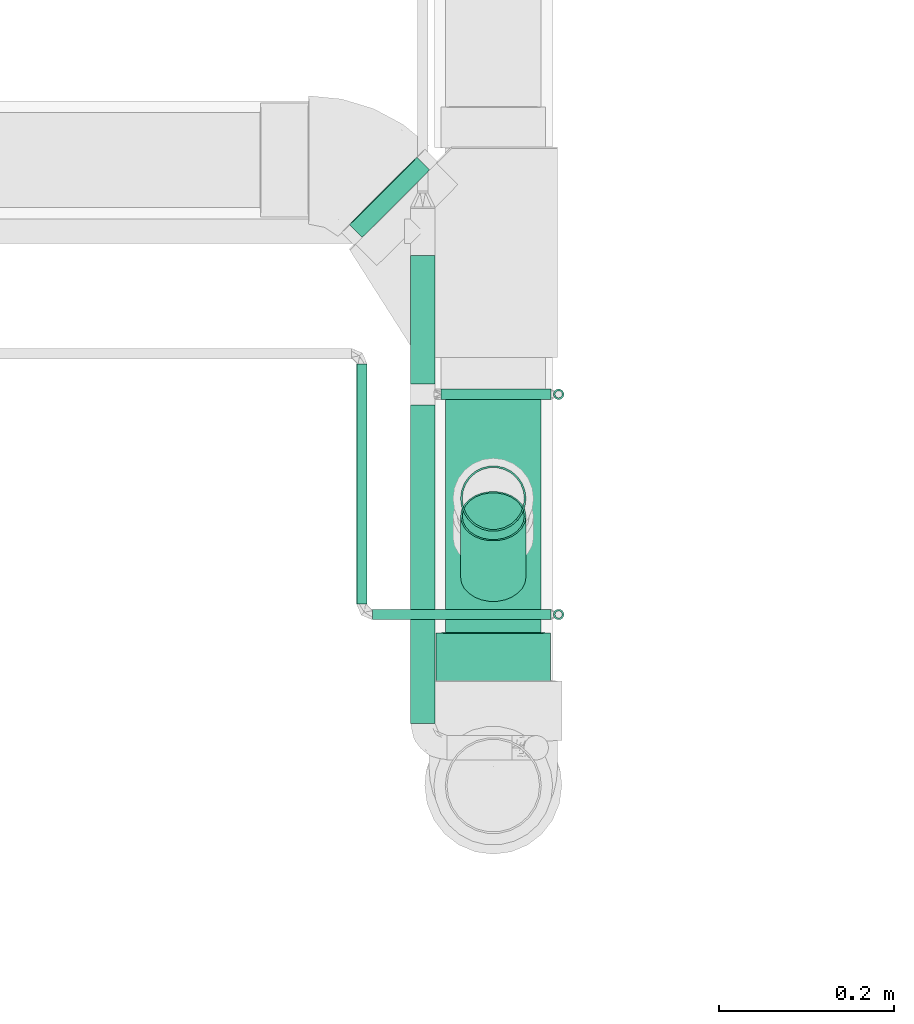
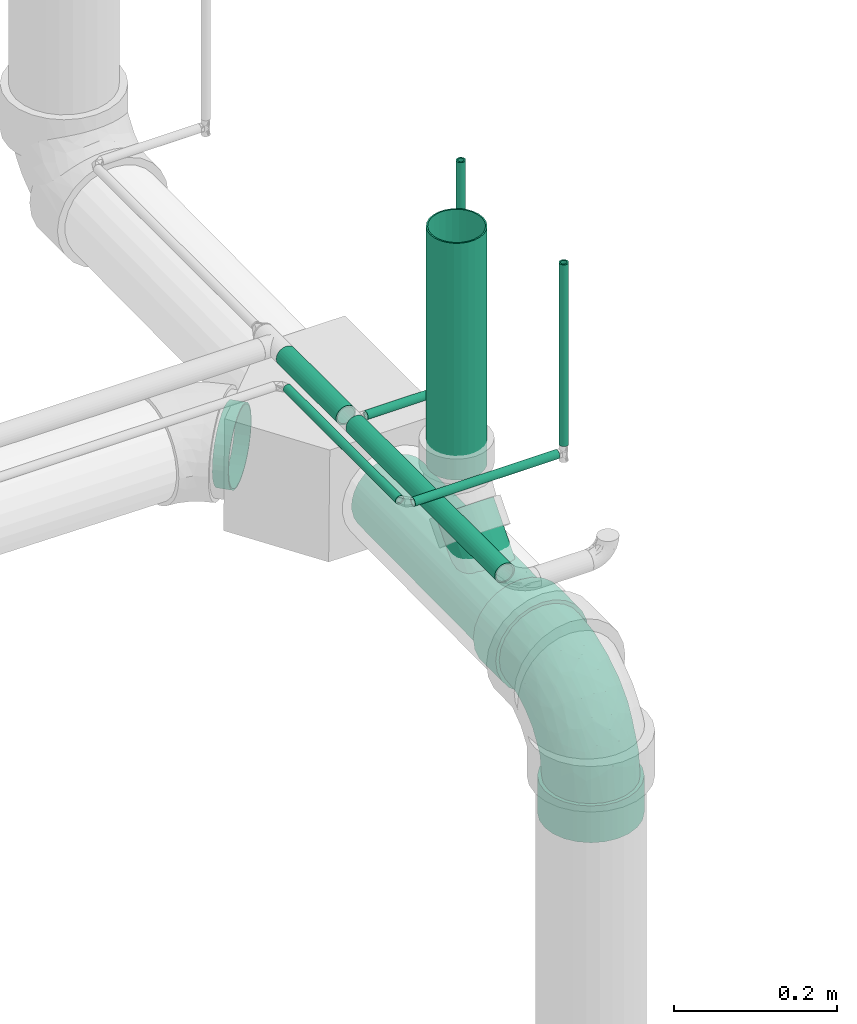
# One storey, part 41 of 108: 11 flow segments, 1 flow fitting.
"""IFC2X3 building model written with IfcOpenShell, lengths in millimetres."""

import ifcopenshell
import ifcopenshell.guid

model = None  # the IFC model being written
_history = None  # IfcOwnerHistory: only IFC2X3 demands one
_inside = {}  # id of a spatial element -> (the spatial element, [elements in it])
_under = {}  # id of a project, library or spatial element -> (it, [spatial elements below it])
_declared = {}  # id of a project -> (the project, [libraries it declares])
_typed = {}  # id of a type object -> (the type object, [elements of that type])
_made_of = {}  # id of a material, layer set ... -> (it, [elements and type objects made of it])


def new_model(schema):
    """Start an empty IFC model of exactly this schema.

    Asked for "IFC4X3", IfcOpenShell would pick the latest addendum, in which some entities
    have other attributes; the version numbers below select the first issue.
    IFC2X3 requires an IfcOwnerHistory on every rooted entity: one is made here for all.
    """
    global model, _history
    if schema == "IFC4X3":
        model = ifcopenshell.file(schema_version=(4, 3, 0, 0))
    else:
        model = ifcopenshell.file(schema=schema)
    _inside.clear()
    _under.clear()
    _declared.clear()
    _typed.clear()
    _made_of.clear()
    _history = None
    if model.schema == "IFC2X3":
        org = make("IfcOrganization", Name="unknown")
        user = make(
            "IfcPersonAndOrganization",
            ThePerson=make("IfcPerson", FamilyName="unknown"),
            TheOrganization=org,
        )
        app = make(
            "IfcApplication",
            ApplicationDeveloper=org,
            Version="unknown",
            ApplicationFullName="unknown",
            ApplicationIdentifier="unknown",
        )
        _history = make(
            "IfcOwnerHistory",
            OwningUser=user,
            OwningApplication=app,
            ChangeAction="ADDED",
            CreationDate=0,
        )
    return model


def make(cls, **values):
    """One entity of the class cls with the attributes given. An attribute that is None is left unset."""
    return model.create_entity(
        cls, **{name: value for name, value in values.items() if value is not None}
    )


def entity(cls, *values):
    """Any entity or typed value of the class cls, its attributes in the order of the schema. None: left unset."""
    e = model.create_entity(cls)
    for i, value in enumerate(values):
        if value is not None:
            e[i] = value
    return e


def rooted(cls, **values):
    """An entity with a GlobalId (a new one), such as an element, a storey or a relation."""
    return make(cls, GlobalId=ifcopenshell.guid.new(), OwnerHistory=_history, **values)


def si_unit(unit_type, name, prefix=None):
    """IfcSIUnit, for example si_unit("LENGTHUNIT", "METRE", prefix="MILLI")."""
    return make("IfcSIUnit", UnitType=unit_type, Prefix=prefix, Name=name)


def converted_unit(unit_type, name, factor, base, dimensions=None, offset=None):
    """IfcConversionBasedUnit, such as the inch: factor (a typed value) times the base unit."""
    return make(
        "IfcConversionBasedUnit"
        if offset is None
        else "IfcConversionBasedUnitWithOffset",
        ConversionOffset=offset,
        Dimensions=None
        if dimensions is None
        else entity("IfcDimensionalExponents", *dimensions),
        UnitType=unit_type,
        Name=name,
        ConversionFactor=make(
            "IfcMeasureWithUnit", ValueComponent=factor, UnitComponent=base
        ),
    )


def derived_unit(unit_type, elements):
    """IfcDerivedUnit: a product of units, each with its exponent."""
    return make(
        "IfcDerivedUnit",
        Elements=[
            make("IfcDerivedUnitElement", Unit=unit, Exponent=power)
            for unit, power in elements
        ],
        UnitType=unit_type,
    )


def assignment(units):
    """IfcUnitAssignment: the units of a project."""
    return None if units is None else make("IfcUnitAssignment", Units=units)


def point(xyz):
    """IfcCartesianPoint."""
    return None if xyz is None else make("IfcCartesianPoint", Coordinates=xyz)


def direction(xyz):
    """IfcDirection."""
    return None if xyz is None else make("IfcDirection", DirectionRatios=xyz)


def frame(location, z_axis=None, x_axis=None):
    """IfcAxis2Placement3D, a coordinate frame: its origin and axes. An axis left out is left unset."""
    return make(
        "IfcAxis2Placement3D",
        Location=point(location),
        Axis=direction(z_axis),
        RefDirection=direction(x_axis),
    )


def frame_2d(location, x_axis=None):
    """IfcAxis2Placement2D, a coordinate frame in the plane: its origin and x axis."""
    return make(
        "IfcAxis2Placement2D", Location=point(location), RefDirection=direction(x_axis)
    )


def origin_with_axes():
    """The frame at (0, 0, 0) with the z axis (0, 0, 1) and the x axis (1, 0, 0) written out."""
    return frame((0.0, 0.0, 0.0), z_axis=(0.0, 0.0, 1.0), x_axis=(1.0, 0.0, 0.0))


def origin_2d_with_axis():
    """The frame at (0, 0) in the plane with the x axis (1, 0) written out."""
    return frame_2d((0.0, 0.0), x_axis=(1.0, 0.0))


def place(relative_to, where):
    """IfcLocalPlacement: puts the frame where relative to a parent placement (None: the world)."""
    return make(
        "IfcLocalPlacement", PlacementRelTo=relative_to, RelativePlacement=where
    )


def context(
    kind, dimensions, precision=None, world=None, true_north=None, identifier=None
):
    """IfcGeometricRepresentationContext, for example the 3D "Model" context."""
    return make(
        "IfcGeometricRepresentationContext",
        ContextIdentifier=identifier,
        ContextType=kind,
        CoordinateSpaceDimension=dimensions,
        Precision=precision,
        WorldCoordinateSystem=world,
        TrueNorth=true_north,
    )


def subcontext(parent, identifier, kind, view, scale=None):
    """IfcGeometricRepresentationSubContext, for example "Body" below "Model"."""
    return make(
        "IfcGeometricRepresentationSubContext",
        ContextIdentifier=identifier,
        ContextType=kind,
        ParentContext=parent,
        TargetScale=scale,
        TargetView=view,
    )


def project(units=None, contexts=None):
    """IfcProject with its units and contexts."""
    return rooted(
        "IfcProject",
        Name="project",
        RepresentationContexts=contexts,
        UnitsInContext=assignment(units),
    )


def spatial(cls, under=None, at=None, **own):
    """A site, building, storey or space (cls), placed at a placement, below another one or the project."""
    s = rooted(cls, ObjectPlacement=at, **own)
    if under is not None:
        _under.setdefault(under.id(), (under, []))[1].append(s)
    return s


def profile(cls, at=None, kind="AREA", **sizes):
    """A parametric profile (cls). Its sizes go by their IFC names, for example OverallWidth=200.0."""
    return make(cls, ProfileType=kind, Position=at, **sizes)


def hollow_circle(**sizes):
    """IfcCircleHollowProfileDef."""
    return profile("IfcCircleHollowProfileDef", **sizes)


def extrude(swept, where, along, depth):
    """IfcExtrudedAreaSolid: the profile swept, set in the frame where, extruded along a direction by depth."""
    return make(
        "IfcExtrudedAreaSolid",
        SweptArea=swept,
        Position=where,
        ExtrudedDirection=direction(along),
        Depth=depth,
    )


def faces_of(points, faces, orient=None, outer=None):
    """IfcFace entities. A face is a list of loops; a loop is a list of indices into points, from 0.

    orient and outer hold one flag for each loop. By default every Orientation is true, the
    first loop of a face is its IfcFaceOuterBound and the others are IfcFaceBound.
    """
    made = []
    for i, loops in enumerate(faces):
        bounds = []
        for j, loop in enumerate(loops):
            is_outer = j == 0 if outer is None else outer[i][j]
            bounds.append(
                make(
                    "IfcFaceOuterBound" if is_outer else "IfcFaceBound",
                    Bound=make("IfcPolyLoop", Polygon=[points[k] for k in loop]),
                    Orientation=True if orient is None else orient[i][j],
                )
            )
        made.append(make("IfcFace", Bounds=bounds))
    return made


def open_shell(faces, orient=None, outer=None):
    """The faces of one IfcOpenShell. surface_model builds it on its shared points."""
    return ("IfcOpenShell", faces, orient, outer)


def surface_model(cls, points, shells):
    """IfcFaceBasedSurfaceModel or IfcShellBasedSurfaceModel (cls): surfaces that need not close."""
    shared = [point(p) for p in points]
    made = [make(c, CfsFaces=faces_of(shared, fs, o, b)) for c, fs, o, b in shells]
    if cls == "IfcFaceBasedSurfaceModel":
        return make(cls, FbsmFaces=made)
    return make(cls, SbsmBoundary=made)


def shape(context_of_items, identifier, shape_type, items):
    """IfcShapeRepresentation: the items that make up one representation, for example the "Body"."""
    return make(
        "IfcShapeRepresentation",
        ContextOfItems=context_of_items,
        RepresentationIdentifier=identifier,
        RepresentationType=shape_type,
        Items=items,
    )


def source(mapping_origin, context_of_items, identifier, shape_type, items):
    """IfcRepresentationMap: a shape defined once, which mapped items show again and again."""
    return make(
        "IfcRepresentationMap",
        MappingOrigin=mapping_origin,
        MappedRepresentation=shape(context_of_items, identifier, shape_type, items),
    )


def transform(
    local_origin,
    x_axis=None,
    y_axis=None,
    z_axis=None,
    scale=None,
    scale2=None,
    scale3=None,
    uniform=True,
):
    """IfcCartesianTransformationOperator3D, or its non-uniform kind. x_axis, y_axis, z_axis: its Axis1, 2, 3."""
    if uniform:
        return make(
            "IfcCartesianTransformationOperator3D",
            Axis1=direction(x_axis),
            Axis2=direction(y_axis),
            LocalOrigin=point(local_origin),
            Scale=scale,
            Axis3=direction(z_axis),
        )
    return make(
        "IfcCartesianTransformationOperator3DnonUniform",
        Axis1=direction(x_axis),
        Axis2=direction(y_axis),
        LocalOrigin=point(local_origin),
        Scale=scale,
        Axis3=direction(z_axis),
        Scale2=scale2,
        Scale3=scale3,
    )


def mapped(mapping_source, mapping_target):
    """IfcMappedItem: shows the shape of a source again, moved by a transform."""
    return make(
        "IfcMappedItem", MappingSource=mapping_source, MappingTarget=mapping_target
    )


def made_of(thing, what):
    """Note that an element or type object is made of a material, layer set ...; save() writes the relation."""
    if what is not None:
        _made_of.setdefault(what.id(), (what, []))[1].append(thing)
    return thing


def type_object(cls, material=None, **own):
    """A type object (cls), such as IfcWallType, which elements share."""
    return made_of(rooted(cls, **own), material)


def element(
    cls,
    number,
    at=None,
    inside=None,
    cuts=None,
    type_object=None,
    material=None,
    context=None,
    identifier="Body",
    shape_type=None,
    held_by="IfcProductDefinitionShape",
    body=None,
    shapes=None,
    **own,
):
    """One element of the class cls, such as IfcWall. Its Tag is "e" and its number.

    at: its placement. inside: the storey or other place that contains it. cuts: it is an
    opening in that element (IfcRelVoidsElement). A single representation is given by context,
    identifier, shape_type and body (its items); several are given by shapes. held_by: the class
    of the entity that holds the representations. save() writes the other relations.
    """
    e = rooted(cls, Tag="e%d" % number, ObjectPlacement=at, **own)
    if body is not None:
        shapes = [shape(context, identifier, shape_type, body)]
    if shapes is not None:
        e.Representation = make(held_by, Representations=shapes)
    if inside is not None:
        _inside.setdefault(inside.id(), (inside, []))[1].append(e)
    if cuts is not None:
        rooted(
            "IfcRelVoidsElement", RelatingBuildingElement=cuts, RelatedOpeningElement=e
        )
    if type_object is not None:
        _typed.setdefault(type_object.id(), (type_object, []))[1].append(e)
    return made_of(e, material)


def aggregate(whole, parts):
    """IfcRelAggregates: a whole, such as a stair, and the parts it consists of."""
    return rooted("IfcRelAggregates", RelatingObject=whole, RelatedObjects=parts)


def save(model, path):
    """Write the relations noted so far, then the file.

    IfcRelAggregates (storeys below a building ...), IfcRelContainedInSpatialStructure (elements
    in a storey), IfcRelDefinesByType, IfcRelAssociatesMaterial and IfcRelDeclares: one each for
    every whole, place, type object, material and project.
    """
    for whole, parts in _under.values():
        aggregate(whole, parts)
    for where, things in _inside.values():
        rooted(
            "IfcRelContainedInSpatialStructure",
            RelatedElements=things,
            RelatingStructure=where,
        )
    for kind, things in _typed.values():
        rooted("IfcRelDefinesByType", RelatedObjects=things, RelatingType=kind)
    for what, things in _made_of.values():
        rooted("IfcRelAssociatesMaterial", RelatedObjects=things, RelatingMaterial=what)
    for by, libraries in _declared.values():
        rooted("IfcRelDeclares", RelatingContext=by, RelatedDefinitions=libraries)
    model.write(path)


model = new_model("IFC2X3")

# Units and contexts
model_context = context("Model", 3, precision=0.01, world=frame((0.0, 4.29681676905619e-09, 0.0)), true_north=direction((4.01073788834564e-13, 1.0)))
plan_context = context("Plan", 3, precision=0.01, world=frame((0.0, 4.29681676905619e-09, 0.0)), true_north=direction((4.01073788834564e-13, 1.0)))
body_context = subcontext(model_context, "Body", "Model", "MODEL_VIEW")
ifc_project = project(units=[converted_unit("PLANEANGLEUNIT", "DEGREE", entity("IfcPositiveLengthMeasure", 0.0174532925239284), si_unit("PLANEANGLEUNIT", "RADIAN"), dimensions=[0, 0, 0, 0, 0, 0, 0]), si_unit("AREAUNIT", "SQUARE_METRE"), si_unit("LENGTHUNIT", "METRE", prefix="MILLI"), si_unit("MASSUNIT", "GRAM", prefix="KILO"), si_unit("POWERUNIT", "WATT"), si_unit("PRESSUREUNIT", "PASCAL", prefix="KILO"), si_unit("FORCEUNIT", "NEWTON", prefix="KILO"), si_unit("ELECTRICVOLTAGEUNIT", "VOLT"), si_unit("ELECTRICCURRENTUNIT", "AMPERE"), si_unit("THERMODYNAMICTEMPERATUREUNIT", "DEGREE_CELSIUS"), si_unit("TIMEUNIT", "SECOND"), si_unit("VOLUMEUNIT", "CUBIC_METRE"), derived_unit("LINEARVELOCITYUNIT", [(si_unit("LENGTHUNIT", "METRE"), 1), (si_unit("TIMEUNIT", "SECOND"), -1)]), derived_unit("VOLUMETRICFLOWRATEUNIT", [(si_unit("VOLUMEUNIT", "CUBIC_METRE"), 1), (si_unit("TIMEUNIT", "SECOND"), -1)]), derived_unit("THERMALTRANSMITTANCEUNIT", [(si_unit("POWERUNIT", "WATT"), 1), (si_unit("THERMODYNAMICTEMPERATUREUNIT", "KELVIN"), -1), (si_unit("AREAUNIT", "SQUARE_METRE"), -1)]), derived_unit("SOUNDPRESSUREUNIT", [(si_unit("PRESSUREUNIT", "PASCAL"), 1)])], contexts=[model_context, plan_context])

# Site, building, storey
site_placement = place(None, frame((0.0, -4.29681676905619e-09, 0.0), z_axis=(0.0, 0.0, 1.0), x_axis=(1.0, 0.0, 0.0)))
site = spatial("IfcSite", under=ifc_project, at=site_placement, CompositionType="ELEMENT")
building_placement = place(site_placement, frame((0.0, 4.29681676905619e-09, 0.0), z_axis=(0.0, 0.0, 1.0), x_axis=(1.0, 0.0, 0.0)))
building = spatial("IfcBuilding", under=site, at=building_placement, Name="mc-building", CompositionType="ELEMENT")
storey_placement = place(building_placement, frame((0.0, 0.0, 210200.0), z_axis=(0.0, 0.0, 1.0), x_axis=(1.0, 0.0, 0.0)))
storey = spatial("IfcBuildingStorey", under=building, at=storey_placement, Name="Nivå F - 0,7 m", CompositionType="ELEMENT", Elevation=210200.0)

# Flow fitting
pipe_fitting_type = type_object("IfcPipeFittingType", Name="magi_sewer_bend_001", PredefinedType="BEND")
shared_shape_1 = source(origin_with_axes(), body_context, "Body", "SurfaceModel", [
    surface_model("IfcShellBasedSurfaceModel", [(-174.79605, -16.95265, -63.26814), (-174.79605, -32.75, -56.72466), (-174.79605, -46.3155, -46.3155), (-174.79605, -63.26814, -16.95265), (-174.79605, 56.72466, -32.75), (-174.79605, -56.72466, -32.75), (-174.79605, -65.5, 0.0), (-174.79605, 16.95265, -63.26814), (-174.79605, 0.0, -65.5), (-174.79605, 32.75, -56.72466), (-174.79605, 46.3155, -46.3155), (-174.79605, 63.26814, -16.95265), (-174.79605, -63.26814, 16.95265), (-174.79605, -56.72466, 32.75), (-174.79605, -46.3155, 46.3155), (-174.79605, 63.26814, 16.95265), (-174.79605, -16.95265, 63.26814), (-174.79605, 0.0, 65.5), (-174.79605, -32.75, 56.72466), (-174.79605, 46.3155, 46.3155), (-174.79605, 56.72466, 32.75), (-174.79605, 65.5, 0.0), (-174.79605, 16.95265, 63.26814), (-174.79605, 32.75, 56.72466), (-119.79605, -16.95265, 63.26814), (-119.79605, 16.95265, 63.26814), (-119.79605, 0.0, 65.5), (-119.79605, -46.3155, 46.3155), (-119.79605, -32.75, 56.72466), (-119.79605, -56.72466, 32.75), (-119.79605, -63.26814, 16.95265), (-119.79605, 46.3155, 46.3155), (-119.79605, 32.75, 56.72466), (-119.79605, 63.26814, 16.95265), (-119.79605, 56.72466, 32.75), (-119.79605, 63.26814, -16.95265), (-119.79605, 65.5, 0.0), (-119.79605, -63.26814, -16.95265), (-119.79605, 32.75, -56.72466), (-119.79605, -65.5, 0.0), (-119.79605, -16.95265, -63.26814), (-119.79605, -56.72466, -32.75), (-119.79605, -46.3155, -46.3155), (-119.79605, -32.75, -56.72466), (-119.79605, 0.0, -65.5), (-119.79605, 46.3155, -46.3155), (-119.79605, 56.72466, -32.75), (-119.79605, 16.95265, -63.26814), (-61.51711, 175.41996, 16.95265), (-54.97396, 175.35452, 32.75), (-44.56531, 175.25044, 46.3155), (-15.20393, 174.95684, 63.26814), (-61.51711, 175.41996, -16.95265), (18.69967, 174.61779, -63.26814), (-31.00049, 175.1148, 56.72466), (48.06105, 174.32417, 46.3155), (-44.56531, 175.25044, -46.3155), (-54.97396, 175.35452, -32.75), (-63.74885, 175.44227, 0.0), (-31.00049, 175.1148, -56.72466), (1.74787, 174.78731, -65.5), (-15.20393, 174.95684, -63.26814), (1.74787, 174.78731, 65.5), (18.69967, 174.61779, 63.26814), (34.49624, 174.45983, 56.72466), (58.4697, 174.22009, 32.75), (65.01285, 174.15467, 16.95265), (67.2446, 174.13234, 0.0), (48.06105, 174.32417, -46.3155), (34.49624, 174.45983, -56.72466), (58.4697, 174.22009, -32.75), (65.01285, 174.15467, -16.95265), (66.69463, 119.1351, 0.0), (64.46288, 119.15741, 16.95265), (57.91973, 119.22285, 32.75), (47.51108, 119.32693, 46.3155), (33.94626, 119.46258, 56.72466), (18.1497, 119.62054, 63.26814), (47.51108, 119.32693, -46.3155), (-15.7539, 119.95957, -63.26814), (18.1497, 119.62054, -63.26814), (57.91973, 119.22285, -32.75), (64.46288, 119.15741, -16.95265), (33.94626, 119.46258, -56.72466), (1.1979, 119.79006, -65.5), (-15.7539, 119.95957, 63.26814), (-45.11528, 120.25319, -46.3155), (1.1979, 119.79006, 65.5), (-62.06708, 120.42271, 16.95265), (-31.55046, 120.11754, 56.72466), (-45.11528, 120.25319, 46.3155), (-55.52393, 120.35728, 32.75), (-31.55046, 120.11754, -56.72466), (-62.06708, 120.42271, -16.95265), (-55.52393, 120.35728, -32.75), (-64.29882, 120.44503, 0.0), (-119.79605, 15.65855, -58.43851), (-119.79605, 0.0, -60.5), (-119.79605, 58.43851, -15.65855), (-119.79605, 30.25, -52.39454), (-119.79605, 52.39454, -30.25), (-119.79605, 42.77996, -42.77996), (-119.79605, -60.5, 0.0), (-119.79605, -30.25, -52.39454), (-119.79605, -42.77996, -42.77996), (-119.79605, -15.65855, -58.43851), (-119.79605, -58.43851, -15.65855), (-119.79605, -52.39454, -30.25), (-119.79605, -58.43851, 15.65855), (-119.79605, 58.43851, 15.65855), (-119.79605, 52.39454, 30.25), (-119.79605, 42.77996, 42.77996), (-119.79605, 30.25, 52.39454), (-119.79605, 15.65855, 58.43851), (-119.79605, -52.39454, 30.25), (-119.79605, -42.77996, 42.77996), (-119.79605, -30.25, 52.39454), (-119.79605, -15.65855, 58.43851), (-119.79605, 0.0, 60.5), (-119.79605, 60.5, 0.0), (1.1979, 119.79006, -60.5), (-14.45987, 119.94664, -58.43851), (-29.05059, 120.09254, -52.39454), (43.97572, 119.36228, -42.77996), (-51.19402, 120.31398, -30.25), (59.63349, 119.20571, 15.65855), (-41.57992, 120.21783, -42.77996), (61.69488, 119.18509, 0.0), (16.85567, 119.63349, -58.43851), (31.44639, 119.48757, -52.39454), (53.58982, 119.26614, -30.25), (59.63349, 119.20571, -15.65855), (-51.19402, 120.31398, 30.25), (-57.23769, 120.37442, -15.65855), (-59.29907, 120.39503, 0.0), (-57.23769, 120.37442, 15.65855), (-29.05059, 120.09254, 52.39454), (-41.57992, 120.21783, 42.77996), (-14.45987, 119.94664, 58.43851), (43.97572, 119.36228, 42.77996), (53.58982, 119.26614, 30.25), (31.44639, 119.48757, 52.39454), (1.1979, 119.79006, 60.5), (16.85567, 119.63349, 58.43851), (-87.7564, -47.01625, 33.99799), (-81.59863, -53.25036, 19.1542), (-73.11264, -54.39358, 0.0), (-89.88607, -56.58763, 0.0), (32.95566, 31.76664, 23.12546), (43.83182, 46.87375, 14.90539), (38.78221, 51.23378, 30.50477), (27.9062, 48.06796, 41.81132), (15.20787, 45.76588, 50.34414), (12.34215, 21.46453, 41.06128), (-87.67949, -22.85435, 54.43811), (-45.91566, -14.74948, 50.34414), (-59.39918, -0.63529, 58.66063), (35.61407, 77.62346, 45.0791), (-77.9757, -34.8361, 45.0791), (-43.87656, -41.69608, 15.28359), (-51.34156, -45.4394, 0.0), (-29.57048, -36.48523, 0.0), (-60.74993, 104.22435, 10.29838), (-69.35406, 85.05568, 13.11484), (-55.89617, 104.58988, 25.146), (-90.67997, 51.23595, 39.98418), (-82.35119, 68.70825, 21.14642), (-72.88608, 71.30295, 29.78529), (-74.46524, 51.83294, 46.83172), (-93.91693, 37.9627, 50.02655), (-64.7146, 46.18683, 53.57995), (-20.42175, 58.94997, 60.37774), (-44.08168, 44.5247, 59.00094), (-35.46902, 26.15717, 60.21062), (-91.4278, -8.01784, 59.47305), (-21.55232, 103.54419, 56.65744), (-7.40427, 89.47277, 60.34912), (-81.06567, 26.11389, 57.59764), (-89.39426, 8.29859, 60.34912), (-61.1963, 20.40125, 60.32653), (-100.22652, 59.69373, 21.24783), (-87.01841, 60.22132, 31.01352), (-5.00788, -10.48569, 28.16974), (-0.2567, 1.69835, 36.97518), (-20.02834, -14.60637, 37.65577), (-104.15051, 61.68873, 10.04729), (-84.97466, 70.52154, 9.94969), (-27.56806, -26.6884, 28.95666), (-47.70463, -27.46001, 41.48377), (-77.23051, 78.00668, 0.0), (-96.78351, 65.04758, 0.0), (-37.30343, 92.96145, 50.12884), (-103.3235, 22.58663, 56.65744), (-15.17468, 39.71716, 59.39969), (-29.2412, 11.04411, 56.57187), (-5.36768, 32.19014, 55.60132), (-10.25306, 10.3561, 49.56135), (55.12195, 72.56508, 0.0), (54.06364, 81.06208, 19.1542), (47.89142, 87.28187, 33.99799), (8.93168, 91.34306, 59.47305), (-51.61902, -38.26796, 30.50477), (57.48361, 89.31572, 0.0), (-48.94222, 80.35407, 45.98414), (-48.70503, 96.95831, 39.351), (-64.07654, 97.42911, 0.0), (-25.30197, 81.32275, 57.59764), (-43.81672, 66.27767, 53.95713), (23.72996, 87.44657, 54.43811), (-61.39969, 85.45322, 29.82879), (-63.05326, 67.11986, 42.80831), (-31.43024, 61.58285, 58.73283), (1.22922, 59.38986, 58.66063), (7.99357, -4.95199, 15.701), (-10.83497, -22.23259, 0.0), (7.90055, -7.97995, 0.0), (-14.80413, -23.43427, 18.62284), (36.77909, 29.20417, 0.0), (27.16405, 17.21797, 13.77462), (14.60561, 9.00285, 27.38157), (-62.13583, 35.67828, 57.75346), (25.55144, 29.73756, 33.12826), (45.95052, 50.88462, 0.0), (22.33982, 10.61211, 0.0), (-100.30809, 36.96592, -49.53455), (-47.73707, -27.58441, -41.37975), (-45.91566, -14.74948, -50.34414), (-20.02833, -14.60637, -37.65576), (-89.39426, 8.29859, -60.34912), (23.72996, 87.44657, -54.43811), (15.20787, 45.76587, -50.34414), (1.22922, 59.38986, -58.66063), (-103.3235, 22.58663, -56.65744), (-69.35406, 85.05568, -13.11484), (-99.61716, 61.7931, -15.61987), (-60.74993, 104.22435, -10.29838), (-84.97466, 70.52154, -9.94969), (-51.61902, -38.26796, -30.50477), (-27.56806, -26.6884, -28.95666), (-81.06567, 26.11389, -57.59764), (-77.10309, 43.83442, -50.82968), (-63.16489, 39.90276, -56.32433), (-77.9757, -34.8361, -45.0791), (-58.74282, 21.01019, -60.37774), (-44.08168, 44.5247, -59.00094), (-25.80119, 35.7288, -60.21062), (-93.06227, 50.53384, -39.72245), (-81.59863, -53.25036, -19.1542), (-48.37734, 98.38526, -39.19567), (-58.55811, 100.47446, -21.85722), (-66.48601, 63.72127, -42.80831), (-87.7564, -47.01625, -33.99799), (-96.83303, 57.44021, -28.40114), (-82.35119, 68.70825, -21.14642), (-87.67949, -22.85435, -54.4381), (-7.40427, 89.47277, -60.34912), (-47.3097, -43.36092, -14.90539), (14.60561, 9.00285, -27.38157), (12.34215, 21.46453, -41.06128), (25.55144, 29.73756, -33.12826), (-91.4278, -8.01784, -59.47305), (-76.81538, 65.43647, -32.93), (47.89142, 87.28187, -33.99799), (38.78221, 51.23378, -30.50477), (35.61407, 77.62346, -45.0791), (29.28304, 25.48407, -22.76574), (-60.47804, 86.07722, -30.64376), (-37.30342, 92.96145, -50.12884), (-21.55232, 103.54419, -56.65744), (54.06364, 81.06209, -19.1542), (-25.30197, 81.32274, -57.59764), (8.93168, 91.34306, -59.47305), (-39.56343, 15.57107, -59.39969), (-10.75116, 29.35017, -56.57187), (-32.13486, 5.68929, -55.60132), (42.13274, 43.45743, -15.28359), (24.92518, 13.72209, -12.72535), (6.90731, -5.56587, -16.9111), (-51.07595, 60.37645, -52.89772), (-19.7883, 61.39724, -60.32653), (-59.39918, -0.63529, -58.66063), (-37.21382, 63.0363, -57.06139), (-50.30861, 78.65249, -45.71732), (-10.25306, 10.3561, -49.56135), (27.9062, 48.06796, -41.81132), (-14.80414, -23.43428, -18.62283), (-5.00912, -10.4834, -28.17458), (-0.26016, 1.69895, -36.97891)], [open_shell([[[0, 1, 2]], [[0, 2, 3]], [[0, 3, 4]], [[3, 2, 5]], [[4, 3, 6]], [[0, 7, 8]], [[0, 9, 7]], [[10, 9, 0]], [[0, 4, 10]], [[6, 11, 4]], [[6, 12, 11]], [[12, 13, 14]], [[11, 14, 15]], [[16, 17, 14]], [[16, 14, 18]], [[15, 14, 17]], [[15, 19, 20]], [[21, 11, 15]], [[19, 22, 23]], [[22, 19, 15]], [[17, 22, 15]], [[11, 12, 14]], [[24, 25, 26]], [[27, 24, 28]], [[27, 29, 30]], [[24, 27, 25]], [[30, 25, 27]], [[25, 31, 32]], [[31, 25, 33]], [[31, 33, 34]], [[25, 30, 33]], [[33, 35, 36]], [[33, 30, 35]], [[37, 38, 39]], [[40, 37, 41]], [[42, 43, 40]], [[42, 40, 41]], [[44, 37, 40]], [[39, 45, 46]], [[46, 35, 39]], [[38, 44, 47]], [[38, 45, 39]], [[38, 37, 44]], [[39, 35, 30]], [[35, 11, 36]], [[46, 4, 35]], [[47, 44, 7]], [[45, 10, 46]], [[35, 4, 11]], [[11, 21, 36]], [[9, 38, 7]], [[9, 10, 45]], [[38, 47, 7]], [[10, 4, 46]], [[45, 38, 9]], [[44, 8, 7]], [[0, 40, 43]], [[42, 1, 43]], [[5, 41, 37]], [[42, 41, 2]], [[3, 37, 39]], [[40, 0, 8]], [[43, 1, 0]], [[42, 2, 1]], [[41, 5, 2]], [[3, 5, 37]], [[39, 6, 3]], [[40, 8, 44]], [[30, 12, 39]], [[29, 13, 30]], [[28, 18, 27]], [[27, 14, 29]], [[30, 13, 12]], [[12, 6, 39]], [[17, 16, 24]], [[16, 18, 28]], [[14, 27, 18]], [[14, 13, 29]], [[24, 16, 28]], [[24, 26, 17]], [[22, 25, 32]], [[31, 23, 32]], [[20, 34, 33]], [[31, 34, 19]], [[15, 33, 36]], [[25, 22, 17]], [[32, 23, 22]], [[31, 19, 23]], [[34, 20, 19]], [[15, 20, 33]], [[36, 21, 15]], [[25, 17, 26]], [[48, 49, 50]], [[48, 50, 51]], [[52, 48, 53]], [[51, 50, 54]], [[51, 55, 48]], [[52, 56, 57]], [[52, 58, 48]], [[59, 60, 61]], [[56, 52, 53]], [[59, 56, 53]], [[62, 63, 51]], [[63, 64, 55]], [[48, 55, 53]], [[65, 66, 67]], [[65, 67, 55]], [[53, 55, 67]], [[53, 68, 69]], [[60, 59, 53]], [[67, 70, 68]], [[68, 53, 67]], [[70, 67, 71]], [[51, 63, 55]], [[72, 73, 74]], [[72, 74, 75]], [[75, 76, 77]], [[72, 75, 78]], [[79, 80, 75]], [[72, 81, 82]], [[72, 78, 81]], [[78, 80, 83]], [[78, 75, 80]], [[79, 84, 80]], [[79, 75, 77]], [[85, 86, 87]], [[88, 85, 89]], [[90, 91, 88]], [[90, 88, 89]], [[86, 85, 88]], [[79, 86, 92]], [[79, 87, 86]], [[86, 93, 94]], [[86, 88, 93]], [[95, 93, 88]], [[87, 79, 77]], [[79, 61, 84]], [[92, 59, 79]], [[93, 95, 52]], [[86, 56, 92]], [[79, 59, 61]], [[61, 60, 84]], [[57, 94, 52]], [[57, 56, 86]], [[94, 93, 52]], [[56, 59, 92]], [[86, 94, 57]], [[95, 58, 52]], [[48, 88, 91]], [[90, 49, 91]], [[54, 89, 85]], [[90, 89, 50]], [[51, 85, 87]], [[88, 48, 58]], [[91, 49, 48]], [[90, 50, 49]], [[89, 54, 50]], [[51, 54, 85]], [[87, 62, 51]], [[88, 58, 95]], [[77, 63, 87]], [[76, 64, 77]], [[74, 65, 75]], [[75, 55, 76]], [[77, 64, 63]], [[63, 62, 87]], [[67, 66, 73]], [[66, 65, 74]], [[55, 75, 65]], [[55, 64, 76]], [[73, 66, 74]], [[73, 72, 67]], [[71, 82, 81]], [[78, 70, 81]], [[69, 83, 80]], [[78, 83, 68]], [[53, 80, 84]], [[82, 71, 67]], [[81, 70, 71]], [[78, 68, 70]], [[83, 69, 68]], [[53, 69, 80]], [[84, 60, 53]], [[82, 67, 72]], [[96, 97, 98]], [[99, 96, 98]], [[98, 100, 101]], [[99, 98, 101]], [[102, 98, 97]], [[103, 104, 105]], [[104, 97, 105]], [[106, 102, 107]], [[104, 107, 102]], [[104, 102, 97]], [[102, 108, 98]], [[109, 98, 108]], [[110, 109, 111]], [[112, 109, 108]], [[111, 109, 112]], [[113, 112, 108]], [[114, 115, 108]], [[116, 108, 115]], [[117, 118, 116]], [[108, 116, 118]], [[118, 113, 108]], [[119, 98, 109]], [[120, 121, 122]], [[123, 120, 122]], [[122, 124, 125]], [[124, 122, 126]], [[125, 127, 122]], [[128, 123, 129]], [[128, 120, 123]], [[130, 127, 131]], [[127, 130, 123]], [[122, 127, 123]], [[132, 124, 133]], [[134, 135, 132]], [[132, 136, 124]], [[136, 125, 124]], [[136, 132, 137]], [[125, 136, 138]], [[125, 139, 140]], [[139, 125, 141]], [[141, 142, 143]], [[142, 141, 125]], [[125, 138, 142]], [[133, 134, 132]], [[144, 114, 145]], [[146, 145, 147]], [[148, 149, 150]], [[145, 114, 108]], [[108, 147, 145]], [[151, 152, 153]], [[115, 114, 144]], [[154, 155, 156]], [[157, 139, 141]], [[158, 116, 115]], [[158, 154, 116]], [[159, 160, 161]], [[162, 163, 164]], [[111, 165, 110]], [[163, 166, 167]], [[168, 169, 170]], [[171, 172, 173]], [[165, 111, 169]], [[117, 174, 118]], [[138, 175, 176]], [[177, 178, 179]], [[180, 181, 166]], [[182, 183, 184]], [[119, 109, 185]], [[166, 186, 185]], [[187, 184, 188]], [[189, 190, 186]], [[136, 137, 191]], [[113, 192, 112]], [[193, 194, 195]], [[196, 155, 184]], [[166, 185, 180]], [[149, 197, 198]], [[111, 112, 169]], [[150, 198, 199]], [[191, 175, 136]], [[149, 198, 150]], [[143, 142, 200]], [[144, 201, 158]], [[198, 125, 140]], [[135, 164, 132]], [[199, 198, 140]], [[145, 146, 160]], [[198, 202, 125]], [[140, 139, 199]], [[203, 191, 204]], [[177, 170, 169]], [[186, 163, 189]], [[178, 177, 192]], [[205, 162, 134]], [[113, 118, 178]], [[189, 163, 205]], [[181, 167, 166]], [[191, 206, 175]], [[207, 206, 191]], [[132, 164, 204]], [[208, 141, 143]], [[116, 154, 117]], [[157, 208, 152]], [[136, 175, 138]], [[142, 138, 176]], [[155, 158, 188]], [[162, 205, 163]], [[157, 141, 208]], [[209, 167, 210]], [[206, 171, 176]], [[204, 137, 132]], [[210, 170, 207]], [[171, 206, 211]], [[200, 176, 212]], [[174, 178, 118]], [[156, 173, 179]], [[155, 154, 158]], [[174, 154, 156]], [[155, 188, 184]], [[155, 196, 194]], [[200, 208, 143]], [[212, 195, 152]], [[212, 152, 208]], [[152, 196, 153]], [[201, 144, 145]], [[158, 115, 144]], [[139, 157, 199]], [[150, 199, 157]], [[213, 214, 215]], [[182, 184, 187]], [[216, 159, 161]], [[217, 149, 218]], [[219, 213, 218]], [[152, 151, 157]], [[192, 169, 112]], [[177, 220, 170]], [[211, 207, 172]], [[165, 168, 210]], [[185, 186, 190]], [[163, 186, 166]], [[119, 185, 190]], [[185, 109, 180]], [[109, 110, 180]], [[181, 110, 165]], [[110, 181, 180]], [[210, 181, 165]], [[172, 220, 179]], [[212, 176, 171]], [[194, 173, 156]], [[171, 173, 193]], [[210, 204, 209]], [[191, 137, 204]], [[176, 200, 142]], [[208, 200, 212]], [[154, 174, 117]], [[178, 174, 156]], [[207, 191, 203]], [[172, 207, 170]], [[156, 179, 178]], [[172, 179, 173]], [[210, 167, 181]], [[163, 167, 209]], [[183, 196, 184]], [[221, 153, 219]], [[221, 151, 153]], [[150, 157, 151]], [[155, 194, 156]], [[195, 194, 196]], [[152, 195, 196]], [[193, 195, 212]], [[171, 193, 212]], [[194, 193, 173]], [[164, 163, 209]], [[134, 162, 135]], [[108, 102, 147]], [[202, 198, 197]], [[202, 127, 125]], [[176, 175, 206]], [[178, 192, 113]], [[169, 192, 177]], [[162, 164, 135]], [[204, 164, 209]], [[216, 187, 159]], [[160, 159, 145]], [[145, 159, 201]], [[150, 221, 148]], [[149, 222, 197]], [[219, 182, 213]], [[213, 223, 218]], [[213, 216, 214]], [[158, 201, 188]], [[187, 188, 201]], [[159, 187, 201]], [[182, 187, 216]], [[213, 182, 216]], [[219, 153, 183]], [[219, 183, 182]], [[196, 183, 153]], [[216, 161, 214]], [[179, 220, 177]], [[172, 170, 220]], [[169, 168, 165]], [[170, 210, 168]], [[207, 211, 206]], [[172, 171, 211]], [[204, 210, 203]], [[207, 203, 210]], [[148, 219, 218]], [[151, 221, 150]], [[219, 148, 221]], [[149, 148, 218]], [[149, 217, 222]], [[223, 213, 215]], [[223, 217, 218]], [[99, 101, 224]], [[225, 226, 227]], [[97, 96, 228]], [[229, 230, 231]], [[96, 99, 232]], [[189, 205, 233]], [[190, 234, 119]], [[205, 235, 233]], [[236, 234, 190]], [[237, 225, 238]], [[239, 240, 241]], [[242, 225, 237]], [[243, 244, 245]], [[100, 246, 101]], [[107, 247, 106]], [[124, 248, 249]], [[247, 147, 106]], [[240, 246, 250]], [[247, 107, 251]], [[252, 234, 253]], [[242, 103, 254]], [[239, 243, 228]], [[121, 120, 255]], [[131, 127, 202]], [[256, 146, 247]], [[257, 258, 259]], [[260, 105, 97]], [[237, 247, 251]], [[242, 254, 226]], [[246, 252, 261]], [[189, 236, 190]], [[262, 263, 264]], [[253, 236, 233]], [[246, 240, 224]], [[133, 235, 134]], [[257, 259, 265]], [[254, 103, 105]], [[253, 233, 266]], [[267, 122, 268]], [[262, 130, 269]], [[122, 121, 268]], [[255, 270, 268]], [[242, 104, 103]], [[126, 122, 267]], [[248, 266, 249]], [[120, 128, 271]], [[123, 264, 129]], [[96, 232, 228]], [[272, 273, 274]], [[222, 217, 275]], [[276, 277, 257]], [[229, 129, 264]], [[269, 130, 131]], [[241, 278, 244]], [[269, 202, 197]], [[107, 104, 251]], [[248, 124, 126]], [[202, 269, 131]], [[129, 229, 128]], [[130, 262, 123]], [[270, 255, 279]], [[234, 252, 98]], [[256, 247, 237]], [[250, 261, 266]], [[269, 197, 222]], [[233, 235, 249]], [[239, 241, 243]], [[260, 228, 280]], [[271, 255, 120]], [[231, 245, 279]], [[278, 281, 244]], [[282, 266, 248]], [[260, 254, 105]], [[280, 274, 226]], [[280, 226, 254]], [[226, 283, 227]], [[230, 229, 264]], [[271, 229, 231]], [[230, 284, 258]], [[230, 283, 273]], [[104, 242, 251]], [[237, 251, 242]], [[263, 262, 269]], [[264, 123, 262]], [[283, 230, 258]], [[277, 214, 285]], [[238, 286, 285]], [[256, 285, 161]], [[287, 283, 258]], [[275, 217, 276]], [[240, 250, 278]], [[239, 232, 224]], [[282, 278, 250]], [[281, 267, 270]], [[233, 236, 189]], [[234, 236, 253]], [[261, 252, 253]], [[234, 98, 119]], [[246, 100, 252]], [[98, 252, 100]], [[244, 281, 279]], [[280, 228, 243]], [[273, 245, 231]], [[243, 245, 272]], [[228, 260, 97]], [[254, 260, 280]], [[229, 271, 128]], [[255, 271, 231]], [[266, 261, 253]], [[246, 261, 250]], [[126, 267, 248]], [[282, 248, 267]], [[231, 279, 255]], [[244, 279, 245]], [[230, 264, 284]], [[257, 286, 287]], [[264, 263, 284]], [[259, 284, 263]], [[246, 224, 101]], [[239, 224, 240]], [[230, 273, 231]], [[274, 273, 283]], [[226, 274, 283]], [[272, 274, 280]], [[243, 272, 280]], [[273, 272, 245]], [[278, 282, 267]], [[266, 282, 250]], [[134, 235, 205]], [[249, 235, 133]], [[124, 249, 133]], [[233, 249, 266]], [[147, 247, 146]], [[147, 102, 106]], [[224, 232, 99]], [[228, 232, 239]], [[255, 268, 121]], [[267, 268, 270]], [[256, 237, 238]], [[256, 160, 146]], [[265, 276, 257]], [[222, 275, 269]], [[269, 275, 263]], [[276, 217, 223]], [[278, 241, 240]], [[215, 277, 276]], [[286, 277, 285]], [[226, 225, 242]], [[238, 225, 227]], [[286, 238, 227]], [[256, 238, 285]], [[287, 286, 227]], [[286, 257, 277]], [[283, 287, 227]], [[257, 287, 258]], [[214, 277, 215]], [[214, 161, 285]], [[243, 241, 244]], [[267, 281, 278]], [[279, 281, 270]], [[284, 259, 258]], [[265, 263, 275]], [[263, 265, 259]], [[275, 276, 265]], [[256, 161, 160]], [[215, 276, 223]]])]),
])
flow_fitting_placement = place(storey_placement, frame((328906.4829, 462815.28789, 3065.60925000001), z_axis=(1.0, 0.0, 0.0), x_axis=(0.0, -0.999949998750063, -0.0099999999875)))
element("IfcFlowFitting", 1, at=flow_fitting_placement, inside=storey, type_object=pipe_fitting_type, Name="magi_sewer_bend_001", context=body_context, shape_type="MappedRepresentation", body=[
    mapped(shared_shape_1, transform((0.0, 0.0, 0.0), scale=1.0)),
])

# Flow segments
pipe_segment_type_1 = type_object("IfcPipeSegmentType", Name="MA", PredefinedType="RIGIDSEGMENT")
shared_shape_2 = source(origin_with_axes(), body_context, "Body", "SweptSolid", [
    extrude(hollow_circle(Radius=55.0, WallThickness=2.0, at=origin_2d_with_axis()), frame((0.0, 0.0, 0.0), z_axis=(1.0, 0.0, 0.0), x_axis=(0.0, 1.0, 0.0)), (0.0, 0.0, 1.0), 20.3),
])
flow_segment_1_placement = place(storey_placement, frame((328780.57679, 463496.2064, 3072.93995), z_axis=(0.707130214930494, 0.707071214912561, 0.00414200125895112), x_axis=(0.707071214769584, -0.707071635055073, -0.0100000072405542)))
element("IfcFlowSegment", 2, at=flow_segment_1_placement, inside=storey, type_object=pipe_segment_type_1, Name="MA", context=body_context, shape_type="MappedRepresentation", body=[
    mapped(shared_shape_2, transform((0.0, 0.0, 0.0), scale=1.0)),
])
shared_shape_3 = source(origin_with_axes(), body_context, "Body", "SweptSolid", [
    extrude(hollow_circle(Radius=55.0, WallThickness=2.0, at=origin_2d_with_axis()), frame((0.0, 0.0, 0.0), z_axis=(1.0, 0.0, 0.0), x_axis=(0.0, 1.0, 0.0)), (0.0, 0.0, 1.0), 371.4),
])
flow_segment_2_placement = place(storey_placement, frame((328906.4829, 463306.41423, 3070.52051), z_axis=(0.999991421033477, 4.10000172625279e-05, -0.00414200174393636), x_axis=(-4.22046556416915e-07, -0.999949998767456, -0.00999999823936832)))
element("IfcFlowSegment", 3, at=flow_segment_2_placement, inside=storey, type_object=pipe_segment_type_1, Name="MA", context=body_context, shape_type="MappedRepresentation", body=[
    mapped(shared_shape_3, transform((0.0, 0.0, 0.0), scale=1.0)),
])
shared_shape_4 = source(origin_with_axes(), body_context, "Body", "SweptSolid", [
    extrude(hollow_circle(Radius=37.5, WallThickness=2.0, at=origin_2d_with_axis()), frame((0.0, 0.0, 0.0), z_axis=(1.0, 0.0, 0.0), x_axis=(0.0, 1.0, 0.0)), (0.0, 0.0, 1.0), 354.0),
])
flow_segment_3_placement = place(storey_placement, frame((328906.4829, 463144.02694, 3568.0), z_axis=(0.0, 1.0, 0.0), x_axis=(0.0, 0.0, -1.0)))
element("IfcFlowSegment", 4, at=flow_segment_3_placement, inside=storey, type_object=pipe_segment_type_1, Name="MA", context=body_context, shape_type="MappedRepresentation", body=[
    mapped(shared_shape_4, transform((0.0, 0.0, 0.0), scale=1.0)),
])
shared_shape_5 = source(origin_with_axes(), body_context, "Body", "SweptSolid", [
    extrude(hollow_circle(Radius=37.5, WallThickness=2.0, at=origin_2d_with_axis()), frame((0.0, 0.0, 0.0), z_axis=(1.0, 0.0, 0.0), x_axis=(0.0, 1.0, 0.0)), (0.0, 0.0, 1.0), 105.8),
])
flow_segment_4_placement = place(storey_placement, frame((328906.4829, 463123.79048, 3159.85080000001), z_axis=(0.0, -0.754709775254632, 0.65605880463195), x_axis=(0.0, -0.65605880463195, -0.754709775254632)))
element("IfcFlowSegment", 5, at=flow_segment_4_placement, inside=storey, type_object=pipe_segment_type_1, Name="MA", context=body_context, shape_type="MappedRepresentation", body=[
    mapped(shared_shape_5, transform((0.0, 0.0, 0.0), scale=1.0)),
])
pipe_segment_type_2 = type_object("IfcPipeSegmentType", Name="Kobberrør", PredefinedType="RIGIDSEGMENT")
shared_shape_6 = source(origin_with_axes(), body_context, "Body", "SweptSolid", [
    extrude(hollow_circle(Radius=14.0, WallThickness=2.0, at=origin_2d_with_axis()), frame((0.0, 0.0, 0.0), z_axis=(1.0, 0.0, 0.0), x_axis=(0.0, 1.0, 0.0)), (0.0, 0.0, 1.0), 364.7),
])
flow_segment_5_placement = place(storey_placement, frame((328825.72018, 463251.33797, 3233.60008999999), z_axis=(0.0, 0.0, 1.0), x_axis=(0.0, -1.0, 0.0)))
element("IfcFlowSegment", 6, at=flow_segment_5_placement, inside=storey, type_object=pipe_segment_type_2, Name="Kobberrør", context=body_context, shape_type="MappedRepresentation", body=[
    mapped(shared_shape_6, transform((0.0, 0.0, 0.0), scale=1.0)),
])
shared_shape_7 = source(origin_with_axes(), body_context, "Body", "SweptSolid", [
    extrude(hollow_circle(Radius=6.0, WallThickness=2.0, at=origin_2d_with_axis()), frame((0.0, 0.0, 0.0), z_axis=(1.0, 0.0, 0.0), x_axis=(0.0, 1.0, 0.0)), (0.0, 0.0, 1.0), 125.6),
])
flow_segment_6_placement = place(storey_placement, frame((328846.72018, 463263.33797, 3233.60008999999), z_axis=(0.0, 0.0, 1.0), x_axis=(1.0, 0.0, 0.0)))
element("IfcFlowSegment", 7, at=flow_segment_6_placement, inside=storey, type_object=pipe_segment_type_2, Name="Kobberrør", context=body_context, shape_type="MappedRepresentation", body=[
    mapped(shared_shape_7, transform((0.0, 0.0, 0.0), scale=1.0)),
])
shared_shape_8 = source(origin_with_axes(), body_context, "Body", "SweptSolid", [
    extrude(hollow_circle(Radius=14.0, WallThickness=2.0, at=origin_2d_with_axis()), frame((0.0, 0.0, 0.0), z_axis=(1.0, 0.0, 0.0), x_axis=(0.0, 1.0, 0.0)), (0.0, 0.0, 1.0), 146.7),
])
flow_segment_7_placement = place(storey_placement, frame((328825.72018, 463422.0, 3233.60013000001), z_axis=(0.0, 0.0, 1.0), x_axis=(0.0, -1.0, 0.0)))
element("IfcFlowSegment", 8, at=flow_segment_7_placement, inside=storey, type_object=pipe_segment_type_2, Name="Kobberrør", context=body_context, shape_type="MappedRepresentation", body=[
    mapped(shared_shape_8, transform((0.0, 0.0, 0.0), scale=1.0)),
])
shared_shape_9 = source(origin_with_axes(), body_context, "Body", "SweptSolid", [
    extrude(hollow_circle(Radius=6.0, WallThickness=2.0, at=origin_2d_with_axis()), frame((0.0, 0.0, 0.0), z_axis=(1.0, 0.0, 0.0), x_axis=(0.0, 1.0, 0.0)), (0.0, 0.0, 1.0), 274.8),
])
flow_segment_8_placement = place(storey_placement, frame((328756.00629, 463298.0, 3284.41390000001), z_axis=(0.0, 0.0, 1.0), x_axis=(0.0, -1.0, 0.0)))
element("IfcFlowSegment", 9, at=flow_segment_8_placement, inside=storey, type_object=pipe_segment_type_2, Name="Kobberrør", context=body_context, shape_type="MappedRepresentation", body=[
    mapped(shared_shape_9, transform((0.0, 0.0, 0.0), scale=1.0)),
])
shared_shape_10 = source(origin_with_axes(), body_context, "Body", "SweptSolid", [
    extrude(hollow_circle(Radius=6.0, WallThickness=2.0, at=origin_2d_with_axis()), frame((0.0, 0.0, 0.0), z_axis=(1.0, 0.0, 0.0), x_axis=(0.0, 1.0, 0.0)), (0.0, 0.0, 1.0), 204.3),
])
flow_segment_9_placement = place(storey_placement, frame((328972.34469, 463011.2286, 3284.41390000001), z_axis=(0.0, 0.0, 1.0), x_axis=(-1.0, 0.0, 0.0)))
element("IfcFlowSegment", 10, at=flow_segment_9_placement, inside=storey, type_object=pipe_segment_type_2, Name="Kobberrør", context=body_context, shape_type="MappedRepresentation", body=[
    mapped(shared_shape_10, transform((0.0, 0.0, 0.0), scale=1.0)),
])
shared_shape_11 = source(origin_with_axes(), body_context, "Body", "SweptSolid", [
    extrude(hollow_circle(Radius=6.0, WallThickness=2.0, at=origin_2d_with_axis()), frame((0.0, 0.0, 0.0), z_axis=(1.0, 0.0, 0.0), x_axis=(0.0, 1.0, 0.0)), (0.0, 0.0, 1.0), 271.6),
])
flow_segment_10_placement = place(storey_placement, frame((328981.34469, 463011.2286, 3296.41390000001), z_axis=(1.0, 0.0, 0.0), x_axis=(0.0, 0.0, 1.0)))
element("IfcFlowSegment", 11, at=flow_segment_10_placement, inside=storey, type_object=pipe_segment_type_2, Name="Kobberrør", context=body_context, shape_type="MappedRepresentation", body=[
    mapped(shared_shape_11, transform((0.0, 0.0, 0.0), scale=1.0)),
])
shared_shape_12 = source(origin_with_axes(), body_context, "Body", "SweptSolid", [
    extrude(hollow_circle(Radius=6.0, WallThickness=2.0, at=origin_2d_with_axis()), frame((0.0, 0.0, 0.0), z_axis=(1.0, 0.0, 0.0), x_axis=(0.0, 1.0, 0.0)), (0.0, 0.0, 1.0), 322.4),
])
flow_segment_11_placement = place(storey_placement, frame((328981.34469, 463263.33797, 3245.60008999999), z_axis=(1.0, 0.0, 0.0), x_axis=(0.0, 0.0, 1.0)))
element("IfcFlowSegment", 12, at=flow_segment_11_placement, inside=storey, type_object=pipe_segment_type_2, Name="Kobberrør", context=body_context, shape_type="MappedRepresentation", body=[
    mapped(shared_shape_12, transform((0.0, 0.0, 0.0), scale=1.0)),
])

save(model, "model.ifc")
